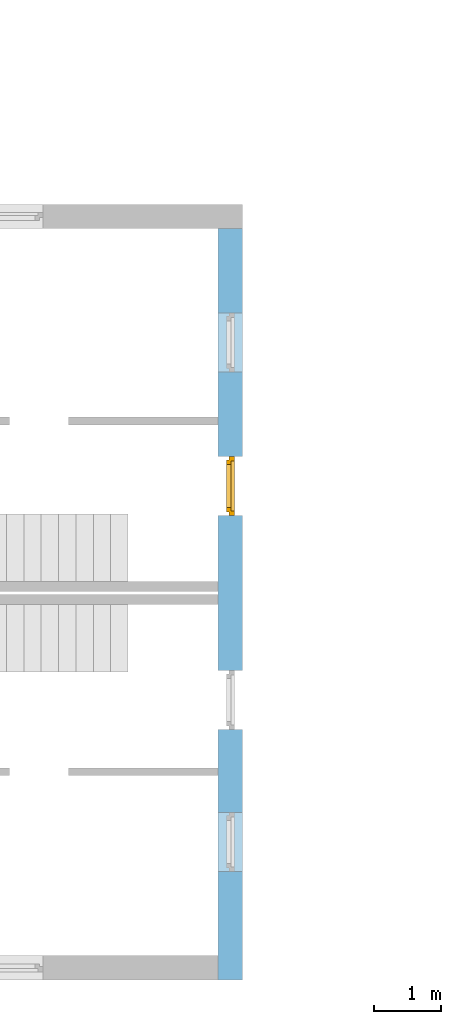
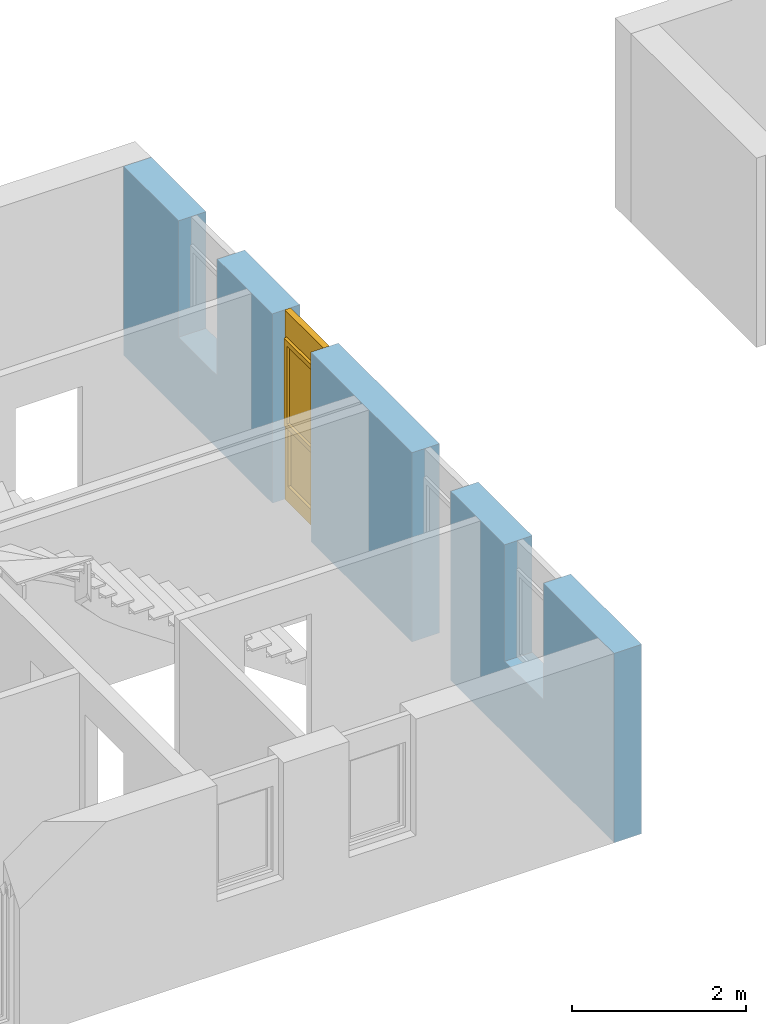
# One storey, part 11 of 42: 1 window, 4 openings, plus 1 element that does not belong to this part.
"""IFC2X3 building model written with IfcOpenShell, lengths in millimetres."""

from ifc_helpers import new_model, entity, si_unit, converted_unit, frame, frame_2d, origin, origin_with_axes, place, context, subcontext, project, spatial, rectangle, extrude, faceted_brep, material, layer, layer_set, layer_usage, type_object, element, fill, save


model = new_model("IFC2X3")

# Units and contexts
model_context = context("Model", 3, precision=1e-05, world=origin())
body_context = subcontext(model_context, "Body", "Model", "MODEL_VIEW")
ifc_project = project(units=[si_unit("LENGTHUNIT", "METRE", prefix="MILLI"), converted_unit("PLANEANGLEUNIT", "DEGREE", entity("IfcPlaneAngleMeasure", 0.0174532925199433), si_unit("PLANEANGLEUNIT", "RADIAN"), dimensions=[0, 0, 0, 0, 0, 0, 0]), si_unit("AREAUNIT", "SQUARE_METRE"), si_unit("VOLUMEUNIT", "CUBIC_METRE")], contexts=[model_context])

# Building, storey
building_placement = place(None, origin())
building = spatial("IfcBuilding", under=ifc_project, at=building_placement, Name="Gebäude", CompositionType="ELEMENT")
storey_placement = place(building_placement, frame((0.0, 0.0, 2730.0), z_axis=(0.0, 0.0, 1.0), x_axis=(1.0, 0.0, 0.0)))
storey = spatial("IfcBuildingStorey", under=building, at=storey_placement, Name="OG.- Grundriss", CompositionType="ELEMENT", Elevation=2730.0)

# Wall, openings, window
ifc_material_1 = material(Name="Poroton")
ifc_layer = layer(ifc_material_1, 365.0000000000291)
ifc_layer_set = layer_set([ifc_layer])
ifc_layer_usage = layer_usage(ifc_layer_set, "AXIS2", "POSITIVE", 0.0)
wall_placement = place(storey_placement, frame((142357.7928067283, 125274.8877321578, 0.0), z_axis=(0.0, 0.0, 1.0), x_axis=(0.0, 1.0, 0.0)))
wall = element("IfcWallStandardCase", 1, at=wall_placement, inside=storey, material=ifc_layer_usage, Name="<Unnamed Element>", context=body_context, shape_type="SweptSolid", body=[
    extrude(rectangle(XDim=11250.00000031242, YDim=365.0000000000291, at=frame_2d((5625.000000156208, 182.5000000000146), x_axis=(1.0, 0.0))), origin_with_axes(), (0.0, 0.0, 1.0), 2650.0),
])
opening_1_placement = place(wall_placement, frame((3750.0, 0.0, 0.0), z_axis=(0.0, 1.0, 0.0), x_axis=(0.0, 0.0, 1.0)))
element("IfcOpeningElement", 2, at=opening_1_placement, cuts=wall, Name="Fensteröffnung", ObjectType="Opening", context=body_context, shape_type="SweptSolid", body=[
    extrude(rectangle(XDim=2650.0, YDim=885.0, at=frame_2d((1325.0, 442.5), x_axis=(1.0, 0.0))), origin_with_axes(), (0.0, 0.0, 1.0), 365.0000000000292),
])
opening_2_placement = place(wall_placement, frame((6955.000000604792, 0.0, 0.0), z_axis=(0.0, 1.0, 0.0), x_axis=(0.0, 0.0, 1.0)))
opening_2 = element("IfcOpeningElement", 3, at=opening_2_placement, cuts=wall, Name="Fensteröffnung", ObjectType="Opening", context=body_context, shape_type="SweptSolid", body=[
    extrude(rectangle(XDim=2650.0, YDim=885.0, at=frame_2d((1325.0, 442.5), x_axis=(1.0, 0.0))), origin_with_axes(), (0.0, 0.0, 1.0), 365.0000000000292),
])
opening_3_placement = place(wall_placement, frame((9105.000000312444, 0.0, 1020.0), z_axis=(0.0, 1.0, 0.0), x_axis=(0.0, 0.0, 1.0)))
element("IfcOpeningElement", 4, at=opening_3_placement, cuts=wall, Name="Fensteröffnung", ObjectType="Opening", context=body_context, shape_type="SweptSolid", body=[
    extrude(rectangle(XDim=1630.0, YDim=885.0, at=frame_2d((815.0, 442.5), x_axis=(1.0, 0.0))), origin_with_axes(), (0.0, 0.0, 1.0), 365.0000000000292),
])
opening_4_placement = place(wall_placement, frame((1625.0, 0.0, 1020.0), z_axis=(0.0, 1.0, 0.0), x_axis=(0.0, 0.0, 1.0)))
element("IfcOpeningElement", 5, at=opening_4_placement, cuts=wall, Name="Fensteröffnung", ObjectType="Opening", context=body_context, shape_type="SweptSolid", body=[
    extrude(rectangle(XDim=1630.0, YDim=885.0, at=frame_2d((815.0, 442.5), x_axis=(1.0, 0.0))), origin_with_axes(), (0.0, 0.0, 1.0), 365.0000000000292),
])
ifc_material_2 = material()
window_style = type_object("IfcWindowStyle", Name="Fenster", ConstructionType="NOTDEFINED", OperationType="USERDEFINED", ParameterTakesPrecedence=False, Sizeable=False)
window_placement = place(opening_2_placement, frame((0.0, 0.0, 0.0), z_axis=(1.0, 0.0, 0.0), x_axis=(0.0, 1.0, 0.0)))
window = element("IfcWindow", 6, at=window_placement, inside=storey, type_object=window_style, material=ifc_material_2, Name="Fenster", OverallHeight=2650.0, OverallWidth=885.0, context=body_context, shape_type="Brep", body=[
    faceted_brep([(4.898587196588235e-15, 200.0000000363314, 2650.0), (4.898587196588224e-15, 200.0000000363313, -2.449293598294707e-15), (69.99999999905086, 200.0000000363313, -2.449293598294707e-15), (69.99999999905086, 200.0000000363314, 2650.0), (0.0, 120.0000000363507, 2.449293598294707e-15), (9.571802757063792e-30, 120.0000000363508, 2650.0), (69.99999999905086, 120.0000000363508, 2650.0), (69.99999999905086, 120.0000000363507, 2.449293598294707e-15), (4.898587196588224e-15, 200.0000000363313, -2.449293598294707e-15), (4.898587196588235e-15, 200.0000000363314, 2650.0), (9.571802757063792e-30, 120.0000000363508, 2650.0), (0.0, 120.0000000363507, 2.449293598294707e-15), (69.99999999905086, 200.0000000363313, -2.449293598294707e-15), (4.898587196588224e-15, 200.0000000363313, -2.449293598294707e-15), (0.0, 120.0000000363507, 2.449293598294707e-15), (69.99999999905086, 120.0000000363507, 2.449293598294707e-15), (69.99999999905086, 200.0000000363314, 2650.0), (69.99999999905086, 200.0000000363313, -2.449293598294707e-15), (69.99999999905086, 120.0000000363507, 2.449293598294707e-15), (69.99999999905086, 120.0000000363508, 2650.0), (4.898587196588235e-15, 200.0000000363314, 2650.0), (69.99999999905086, 200.0000000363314, 2650.0), (69.99999999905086, 120.0000000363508, 2650.0), (9.571802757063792e-30, 120.0000000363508, 2650.0)], [[[0, 1, 2, 3]], [[4, 5, 6, 7]], [[8, 9, 10, 11]], [[12, 13, 14, 15]], [[16, 17, 18, 19]], [[20, 21, 22, 23]]], orient=[[False], [False], [False], [False], [False], [False]]),
    faceted_brep([(815.0000000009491, 200.0000000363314, 2650.0), (815.0000000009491, 200.0000000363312, -2.449293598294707e-15), (884.9999999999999, 200.0000000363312, -2.449293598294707e-15), (884.9999999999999, 200.0000000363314, 2650.0), (815.0000000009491, 120.0000000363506, 2.449293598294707e-15), (815.0000000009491, 120.0000000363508, 2650.0), (884.9999999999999, 120.0000000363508, 2650.0), (884.9999999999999, 120.0000000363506, 2.449293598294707e-15), (815.0000000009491, 200.0000000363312, -2.449293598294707e-15), (815.0000000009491, 200.0000000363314, 2650.0), (815.0000000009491, 120.0000000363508, 2650.0), (815.0000000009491, 120.0000000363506, 2.449293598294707e-15), (884.9999999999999, 200.0000000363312, -2.449293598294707e-15), (815.0000000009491, 200.0000000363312, -2.449293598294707e-15), (815.0000000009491, 120.0000000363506, 2.449293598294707e-15), (884.9999999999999, 120.0000000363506, 2.449293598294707e-15), (884.9999999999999, 200.0000000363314, 2650.0), (884.9999999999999, 200.0000000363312, -2.449293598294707e-15), (884.9999999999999, 120.0000000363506, 2.449293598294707e-15), (884.9999999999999, 120.0000000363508, 2650.0), (815.0000000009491, 200.0000000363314, 2650.0), (884.9999999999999, 200.0000000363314, 2650.0), (884.9999999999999, 120.0000000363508, 2650.0), (815.0000000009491, 120.0000000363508, 2650.0)], [[[0, 1, 2, 3]], [[4, 5, 6, 7]], [[8, 9, 10, 11]], [[12, 13, 14, 15]], [[16, 17, 18, 19]], [[20, 21, 22, 23]]], orient=[[False], [False], [False], [False], [False], [False]]),
    faceted_brep([(69.99999999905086, 200.0000000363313, 220.0), (69.99999999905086, 200.0000000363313, -2.449293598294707e-15), (815.0000000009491, 200.0000000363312, -2.449293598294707e-15), (815.0000000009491, 200.0000000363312, 220.0), (69.99999999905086, 120.0000000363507, 2.449293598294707e-15), (69.99999999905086, 120.0000000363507, 220.0), (815.0000000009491, 120.0000000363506, 220.0), (815.0000000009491, 120.0000000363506, 2.449293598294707e-15), (69.99999999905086, 200.0000000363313, -2.449293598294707e-15), (69.99999999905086, 200.0000000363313, 220.0), (69.99999999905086, 120.0000000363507, 220.0), (69.99999999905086, 120.0000000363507, 2.449293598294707e-15), (815.0000000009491, 200.0000000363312, -2.449293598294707e-15), (69.99999999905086, 200.0000000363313, -2.449293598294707e-15), (69.99999999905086, 120.0000000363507, 2.449293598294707e-15), (815.0000000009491, 120.0000000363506, 2.449293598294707e-15), (815.0000000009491, 200.0000000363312, 220.0), (815.0000000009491, 200.0000000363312, -2.449293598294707e-15), (815.0000000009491, 120.0000000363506, 2.449293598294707e-15), (815.0000000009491, 120.0000000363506, 220.0), (69.99999999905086, 200.0000000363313, 220.0), (815.0000000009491, 200.0000000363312, 220.0), (815.0000000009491, 120.0000000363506, 220.0), (69.99999999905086, 120.0000000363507, 220.0)], [[[0, 1, 2, 3]], [[4, 5, 6, 7]], [[8, 9, 10, 11]], [[12, 13, 14, 15]], [[16, 17, 18, 19]], [[20, 21, 22, 23]]], orient=[[False], [False], [False], [False], [False], [False]]),
    faceted_brep([(69.99999999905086, 200.0000000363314, 2650.0), (69.99999999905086, 200.0000000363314, 2280.0), (815.0000000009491, 200.0000000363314, 2280.0), (815.0000000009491, 200.0000000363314, 2650.0), (69.99999999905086, 120.0000000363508, 2280.0), (69.99999999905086, 120.0000000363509, 2650.0), (815.0000000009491, 120.0000000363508, 2650.0), (815.0000000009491, 120.0000000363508, 2280.0), (69.99999999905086, 200.0000000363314, 2280.0), (69.99999999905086, 200.0000000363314, 2650.0), (69.99999999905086, 120.0000000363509, 2650.0), (69.99999999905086, 120.0000000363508, 2280.0), (815.0000000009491, 200.0000000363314, 2280.0), (69.99999999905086, 200.0000000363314, 2280.0), (69.99999999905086, 120.0000000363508, 2280.0), (815.0000000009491, 120.0000000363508, 2280.0), (815.0000000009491, 200.0000000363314, 2650.0), (815.0000000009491, 200.0000000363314, 2280.0), (815.0000000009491, 120.0000000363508, 2280.0), (815.0000000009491, 120.0000000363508, 2650.0), (69.99999999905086, 200.0000000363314, 2650.0), (815.0000000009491, 200.0000000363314, 2650.0), (815.0000000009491, 120.0000000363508, 2650.0), (69.99999999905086, 120.0000000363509, 2650.0)], [[[0, 1, 2, 3]], [[4, 5, 6, 7]], [[8, 9, 10, 11]], [[12, 13, 14, 15]], [[16, 17, 18, 19]], [[20, 21, 22, 23]]], orient=[[False], [False], [False], [False], [False], [False]]),
    faceted_brep([(69.99999999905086, 200.0000000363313, 1090.0), (69.99999999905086, 200.0000000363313, 1020.0), (815.0000000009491, 200.0000000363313, 1020.0), (815.0000000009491, 200.0000000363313, 1090.0), (69.99999999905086, 120.0000000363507, 1020.0), (69.99999999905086, 120.0000000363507, 1090.0), (815.0000000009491, 120.0000000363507, 1090.0), (815.0000000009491, 120.0000000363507, 1020.0), (69.99999999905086, 200.0000000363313, 1020.0), (69.99999999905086, 200.0000000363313, 1090.0), (69.99999999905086, 120.0000000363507, 1090.0), (69.99999999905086, 120.0000000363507, 1020.0), (815.0000000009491, 200.0000000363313, 1020.0), (69.99999999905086, 200.0000000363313, 1020.0), (69.99999999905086, 120.0000000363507, 1020.0), (815.0000000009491, 120.0000000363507, 1020.0), (815.0000000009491, 200.0000000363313, 1090.0), (815.0000000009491, 200.0000000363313, 1020.0), (815.0000000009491, 120.0000000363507, 1020.0), (815.0000000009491, 120.0000000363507, 1090.0), (69.99999999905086, 200.0000000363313, 1090.0), (815.0000000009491, 200.0000000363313, 1090.0), (815.0000000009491, 120.0000000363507, 1090.0), (69.99999999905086, 120.0000000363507, 1090.0)], [[[0, 1, 2, 3]], [[4, 5, 6, 7]], [[8, 9, 10, 11]], [[12, 13, 14, 15]], [[16, 17, 18, 19]], [[20, 21, 22, 23]]], orient=[[False], [False], [False], [False], [False], [False]]),
    faceted_brep([(69.99999999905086, 160.000000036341, 220.0), (815.0000000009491, 160.0000000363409, 220.0), (815.0000000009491, 160.000000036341, 1020.0), (69.99999999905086, 160.000000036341, 1020.0), (69.99999999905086, 159.000000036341, 220.0), (69.99999999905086, 159.000000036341, 1020.0), (815.0000000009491, 159.000000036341, 1020.0), (815.0000000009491, 159.0000000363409, 220.0), (69.99999999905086, 160.000000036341, 220.0), (69.99999999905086, 159.000000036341, 220.0), (815.0000000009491, 159.0000000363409, 220.0), (815.0000000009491, 160.0000000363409, 220.0), (815.0000000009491, 160.0000000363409, 220.0), (815.0000000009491, 159.0000000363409, 220.0), (815.0000000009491, 159.000000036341, 1020.0), (815.0000000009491, 160.000000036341, 1020.0), (815.0000000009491, 160.000000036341, 1020.0), (815.0000000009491, 159.000000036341, 1020.0), (69.99999999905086, 159.000000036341, 1020.0), (69.99999999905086, 160.000000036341, 1020.0), (69.99999999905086, 160.000000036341, 1020.0), (69.99999999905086, 159.000000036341, 1020.0), (69.99999999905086, 159.000000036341, 220.0), (69.99999999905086, 160.000000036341, 220.0)], [[[0, 1, 2, 3]], [[4, 5, 6, 7]], [[8, 9, 10, 11]], [[12, 13, 14, 15]], [[16, 17, 18, 19]], [[20, 21, 22, 23]]], orient=[[False], [False], [False], [False], [False], [False]]),
    faceted_brep([(49.99999999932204, 240.0000000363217, 2300.0), (49.99999999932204, 240.0000000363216, 1070.0), (119.9999999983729, 240.0000000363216, 1070.0), (119.9999999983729, 240.0000000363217, 2300.0), (49.99999999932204, 170.0000000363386, 1070.0), (49.99999999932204, 170.0000000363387, 2300.0), (119.9999999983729, 170.0000000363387, 2300.0), (119.9999999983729, 170.0000000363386, 1070.0), (49.99999999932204, 240.0000000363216, 1070.0), (49.99999999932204, 240.0000000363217, 2300.0), (49.99999999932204, 170.0000000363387, 2300.0), (49.99999999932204, 170.0000000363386, 1070.0), (119.9999999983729, 240.0000000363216, 1070.0), (49.99999999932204, 240.0000000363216, 1070.0), (49.99999999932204, 170.0000000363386, 1070.0), (119.9999999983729, 170.0000000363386, 1070.0), (119.9999999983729, 240.0000000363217, 2300.0), (119.9999999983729, 240.0000000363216, 1070.0), (119.9999999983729, 170.0000000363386, 1070.0), (119.9999999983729, 170.0000000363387, 2300.0), (49.99999999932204, 240.0000000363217, 2300.0), (119.9999999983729, 240.0000000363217, 2300.0), (119.9999999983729, 170.0000000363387, 2300.0), (49.99999999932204, 170.0000000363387, 2300.0)], [[[0, 1, 2, 3]], [[4, 5, 6, 7]], [[8, 9, 10, 11]], [[12, 13, 14, 15]], [[16, 17, 18, 19]], [[20, 21, 22, 23]]], orient=[[False], [False], [False], [False], [False], [False]]),
    faceted_brep([(765.000000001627, 240.0000000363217, 2300.0), (765.000000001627, 240.0000000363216, 1070.0), (835.0000000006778, 240.0000000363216, 1070.0), (835.0000000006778, 240.0000000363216, 2300.0), (765.000000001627, 170.0000000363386, 1070.0), (765.000000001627, 170.0000000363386, 2300.0), (835.0000000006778, 170.0000000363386, 2300.0), (835.0000000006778, 170.0000000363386, 1070.0), (765.000000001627, 240.0000000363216, 1070.0), (765.000000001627, 240.0000000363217, 2300.0), (765.000000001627, 170.0000000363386, 2300.0), (765.000000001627, 170.0000000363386, 1070.0), (835.0000000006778, 240.0000000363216, 1070.0), (765.000000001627, 240.0000000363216, 1070.0), (765.000000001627, 170.0000000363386, 1070.0), (835.0000000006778, 170.0000000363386, 1070.0), (835.0000000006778, 240.0000000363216, 2300.0), (835.0000000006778, 240.0000000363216, 1070.0), (835.0000000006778, 170.0000000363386, 1070.0), (835.0000000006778, 170.0000000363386, 2300.0), (765.000000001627, 240.0000000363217, 2300.0), (835.0000000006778, 240.0000000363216, 2300.0), (835.0000000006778, 170.0000000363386, 2300.0), (765.000000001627, 170.0000000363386, 2300.0)], [[[0, 1, 2, 3]], [[4, 5, 6, 7]], [[8, 9, 10, 11]], [[12, 13, 14, 15]], [[16, 17, 18, 19]], [[20, 21, 22, 23]]], orient=[[False], [False], [False], [False], [False], [False]]),
    faceted_brep([(119.9999999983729, 240.0000000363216, 1140.0), (119.9999999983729, 240.0000000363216, 1070.0), (765.000000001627, 240.0000000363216, 1070.0), (765.000000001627, 240.0000000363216, 1140.0), (119.9999999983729, 170.0000000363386, 1070.0), (119.9999999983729, 170.0000000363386, 1140.0), (765.000000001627, 170.0000000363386, 1140.0), (765.000000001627, 170.0000000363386, 1070.0), (119.9999999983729, 240.0000000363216, 1070.0), (119.9999999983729, 240.0000000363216, 1140.0), (119.9999999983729, 170.0000000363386, 1140.0), (119.9999999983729, 170.0000000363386, 1070.0), (765.000000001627, 240.0000000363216, 1070.0), (119.9999999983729, 240.0000000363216, 1070.0), (119.9999999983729, 170.0000000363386, 1070.0), (765.000000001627, 170.0000000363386, 1070.0), (765.000000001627, 240.0000000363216, 1140.0), (765.000000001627, 240.0000000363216, 1070.0), (765.000000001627, 170.0000000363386, 1070.0), (765.000000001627, 170.0000000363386, 1140.0), (119.9999999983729, 240.0000000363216, 1140.0), (765.000000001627, 240.0000000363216, 1140.0), (765.000000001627, 170.0000000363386, 1140.0), (119.9999999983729, 170.0000000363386, 1140.0)], [[[0, 1, 2, 3]], [[4, 5, 6, 7]], [[8, 9, 10, 11]], [[12, 13, 14, 15]], [[16, 17, 18, 19]], [[20, 21, 22, 23]]], orient=[[False], [False], [False], [False], [False], [False]]),
    faceted_brep([(119.9999999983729, 240.0000000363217, 2300.0), (119.9999999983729, 240.0000000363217, 2230.0), (765.000000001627, 240.0000000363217, 2230.0), (765.000000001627, 240.0000000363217, 2300.0), (119.9999999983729, 170.0000000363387, 2230.0), (119.9999999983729, 170.0000000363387, 2300.0), (765.000000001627, 170.0000000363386, 2300.0), (765.000000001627, 170.0000000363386, 2230.0), (119.9999999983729, 240.0000000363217, 2230.0), (119.9999999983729, 240.0000000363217, 2300.0), (119.9999999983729, 170.0000000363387, 2300.0), (119.9999999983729, 170.0000000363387, 2230.0), (765.000000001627, 240.0000000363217, 2230.0), (119.9999999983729, 240.0000000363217, 2230.0), (119.9999999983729, 170.0000000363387, 2230.0), (765.000000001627, 170.0000000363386, 2230.0), (765.000000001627, 240.0000000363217, 2300.0), (765.000000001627, 240.0000000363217, 2230.0), (765.000000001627, 170.0000000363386, 2230.0), (765.000000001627, 170.0000000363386, 2300.0), (119.9999999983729, 240.0000000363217, 2300.0), (765.000000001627, 240.0000000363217, 2300.0), (765.000000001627, 170.0000000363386, 2300.0), (119.9999999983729, 170.0000000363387, 2300.0)], [[[0, 1, 2, 3]], [[4, 5, 6, 7]], [[8, 9, 10, 11]], [[12, 13, 14, 15]], [[16, 17, 18, 19]], [[20, 21, 22, 23]]], orient=[[False], [False], [False], [False], [False], [False]]),
    faceted_brep([(119.9999999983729, 205.0000000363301, 1140.0), (765.000000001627, 205.0000000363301, 1140.0), (765.000000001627, 205.0000000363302, 2230.0), (119.9999999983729, 205.0000000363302, 2230.0), (119.9999999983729, 204.0000000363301, 1140.0), (119.9999999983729, 204.0000000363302, 2230.0), (765.000000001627, 204.0000000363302, 2230.0), (765.000000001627, 204.0000000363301, 1140.0), (119.9999999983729, 205.0000000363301, 1140.0), (119.9999999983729, 204.0000000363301, 1140.0), (765.000000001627, 204.0000000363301, 1140.0), (765.000000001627, 205.0000000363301, 1140.0), (765.000000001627, 205.0000000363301, 1140.0), (765.000000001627, 204.0000000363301, 1140.0), (765.000000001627, 204.0000000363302, 2230.0), (765.000000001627, 205.0000000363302, 2230.0), (765.000000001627, 205.0000000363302, 2230.0), (765.000000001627, 204.0000000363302, 2230.0), (119.9999999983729, 204.0000000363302, 2230.0), (119.9999999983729, 205.0000000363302, 2230.0), (119.9999999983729, 205.0000000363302, 2230.0), (119.9999999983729, 204.0000000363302, 2230.0), (119.9999999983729, 204.0000000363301, 1140.0), (119.9999999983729, 205.0000000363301, 1140.0)], [[[0, 1, 2, 3]], [[4, 5, 6, 7]], [[8, 9, 10, 11]], [[12, 13, 14, 15]], [[16, 17, 18, 19]], [[20, 21, 22, 23]]], orient=[[False], [False], [False], [False], [False], [False]]),
])
fill(opening_2, window)

save(model, "model.ifc")
